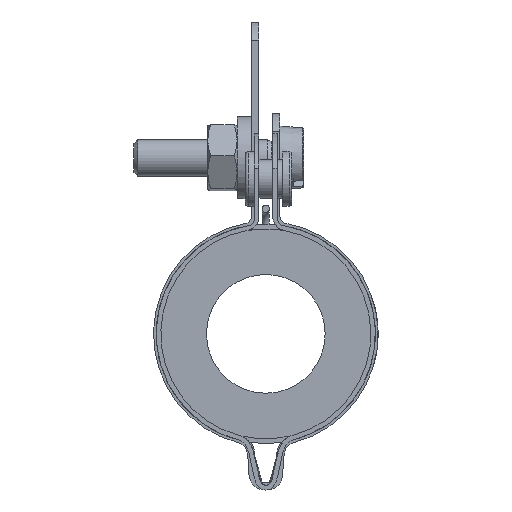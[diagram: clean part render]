
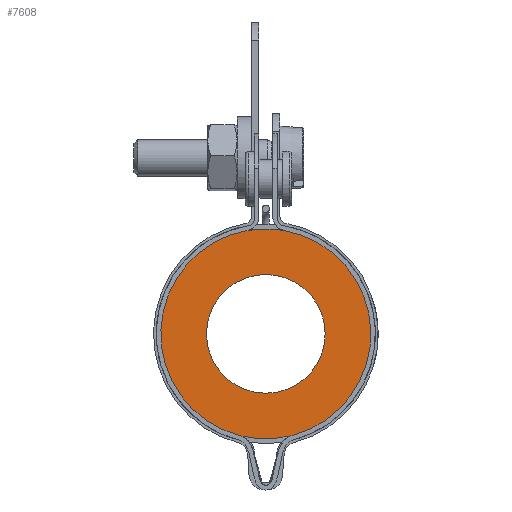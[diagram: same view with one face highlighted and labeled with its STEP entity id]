
A CAD part, front view. The second image highlights one B-rep face of the part: STEP entity #7608.
In plain terms, the highlighted planar face has unit normal (0, -1, 0).
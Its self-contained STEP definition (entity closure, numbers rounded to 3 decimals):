
#72=B_SPLINE_CURVE_WITH_KNOTS($,3,(#12843,#12844,#12845,#12846),
 .UNSPECIFIED.,.F.,.F.,(4,4),(0.,0.023),.UNSPECIFIED.);
#73=B_SPLINE_CURVE_WITH_KNOTS($,3,(#12849,#12850,#12851,#12852),
 .UNSPECIFIED.,.F.,.F.,(4,4),(0.125,0.148),
 .UNSPECIFIED.);
#578=LINE($,#12833,#1128);
#579=LINE($,#12841,#1129);
#1128=VECTOR($,#10332,0.13);
#1129=VECTOR($,#10339,0.13);
#1436=FACE_BOUND($,#2258,.T.);
#1783=FACE_OUTER_BOUND($,#2257,.T.);
#2257=EDGE_LOOP($,(#6192,#6193,#6194,#6195,#6196,#6197,#6198,#6199));
#2258=EDGE_LOOP($,(#6200));
#2731=CIRCLE($,#8367,6.5);
#2736=CIRCLE($,#8375,11.5);
#2737=CIRCLE($,#8376,11.5);
#2738=CIRCLE($,#8377,11.5);
#2739=CIRCLE($,#8378,11.5);
#3393=VERTEX_POINT($,#12804);
#3402=VERTEX_POINT($,#12831);
#3403=VERTEX_POINT($,#12832);
#3404=VERTEX_POINT($,#12834);
#3405=VERTEX_POINT($,#12836);
#3406=VERTEX_POINT($,#12838);
#3407=VERTEX_POINT($,#12840);
#3408=VERTEX_POINT($,#12842);
#3409=VERTEX_POINT($,#12847);
#4353=EDGE_CURVE($,#3393,#3393,#2731,.T.);
#4362=EDGE_CURVE($,#3402,#3403,#578,.T.);
#4363=EDGE_CURVE($,#3403,#3404,#2736,.T.);
#4364=EDGE_CURVE($,#3404,#3405,#2737,.T.);
#4365=EDGE_CURVE($,#3405,#3406,#2738,.T.);
#4366=EDGE_CURVE($,#3406,#3407,#579,.T.);
#4367=EDGE_CURVE($,#3407,#3408,#72,.T.);
#4368=EDGE_CURVE($,#3408,#3409,#2739,.T.);
#4369=EDGE_CURVE($,#3409,#3402,#73,.T.);
#6192=ORIENTED_EDGE($,*,*,#4362,.T.);
#6193=ORIENTED_EDGE($,*,*,#4363,.T.);
#6194=ORIENTED_EDGE($,*,*,#4364,.T.);
#6195=ORIENTED_EDGE($,*,*,#4365,.T.);
#6196=ORIENTED_EDGE($,*,*,#4366,.T.);
#6197=ORIENTED_EDGE($,*,*,#4367,.T.);
#6198=ORIENTED_EDGE($,*,*,#4368,.T.);
#6199=ORIENTED_EDGE($,*,*,#4369,.T.);
#6200=ORIENTED_EDGE($,*,*,#4353,.T.);
#6835=PLANE($,#8374);
#7608=ADVANCED_FACE($,(#1783,#1436),#6835,.T.);
#8367=AXIS2_PLACEMENT_3D($,#12805,#10314,#10315);
#8374=AXIS2_PLACEMENT_3D($,#12830,#10330,#10331);
#8375=AXIS2_PLACEMENT_3D($,#12835,#10333,#10334);
#8376=AXIS2_PLACEMENT_3D($,#12837,#10335,#10336);
#8377=AXIS2_PLACEMENT_3D($,#12839,#10337,#10338);
#8378=AXIS2_PLACEMENT_3D($,#12848,#10340,#10341);
#10314=DIRECTION('center_axis',(0.,1.,0.));
#10315=DIRECTION('ref_axis',(1.,0.,0.));
#10330=DIRECTION('center_axis',(0.,-1.,0.));
#10331=DIRECTION('ref_axis',(0.,0.,-1.));
#10332=DIRECTION($,(0.992,0.,0.126));
#10333=DIRECTION('center_axis',(0.,-1.,0.));
#10334=DIRECTION('ref_axis',(1.,0.,0.));
#10335=DIRECTION('center_axis',(0.,-1.,0.));
#10336=DIRECTION('ref_axis',(1.,0.,0.));
#10337=DIRECTION('center_axis',(0.,-1.,0.));
#10338=DIRECTION('ref_axis',(1.,0.,0.));
#10339=DIRECTION($,(0.992,0.,-0.126));
#10340=DIRECTION('center_axis',(0.,-1.,0.));
#10341=DIRECTION('ref_axis',(1.,0.,0.));
#12804=CARTESIAN_POINT('',(-6.5,0.,0.));
#12805=CARTESIAN_POINT('Origin',(0.,0.,0.));
#12830=CARTESIAN_POINT('Origin',(0.,0.,0.));
#12831=CARTESIAN_POINT('',(2.871,0.,-11.118));
#12832=CARTESIAN_POINT('',(3.,0.,-11.102));
#12833=CARTESIAN_POINT($,(2.153,0.,-11.209));
#12834=CARTESIAN_POINT('',(2.063,0.,11.313));
#12835=CARTESIAN_POINT('Origin',(0.,0.,0.));
#12836=CARTESIAN_POINT('',(-2.063,0.,11.313));
#12837=CARTESIAN_POINT('Origin',(0.,0.,0.));
#12838=CARTESIAN_POINT('',(-3.,0.,-11.102));
#12839=CARTESIAN_POINT('Origin',(0.,0.,0.));
#12840=CARTESIAN_POINT('',(-2.871,0.,-11.118));
#12841=CARTESIAN_POINT($,(-2.153,0.,-11.209));
#12842=CARTESIAN_POINT('',(-2.653,0.,-11.19));
#12843=CARTESIAN_POINT('Ctrl Pts',(-2.871,0.,-11.118));
#12844=CARTESIAN_POINT('Ctrl Pts',(-2.796,0.,-11.137));
#12845=CARTESIAN_POINT('Ctrl Pts',(-2.723,0.,
-11.161));
#12846=CARTESIAN_POINT('Ctrl Pts',(-2.653,0.,
-11.19));
#12847=CARTESIAN_POINT('',(2.653,0.,-11.19));
#12848=CARTESIAN_POINT('Origin',(0.,0.,0.));
#12849=CARTESIAN_POINT('Ctrl Pts',(2.653,0.,-11.19));
#12850=CARTESIAN_POINT('Ctrl Pts',(2.723,0.,
-11.162));
#12851=CARTESIAN_POINT('Ctrl Pts',(2.796,0.,
-11.138));
#12852=CARTESIAN_POINT('Ctrl Pts',(2.871,0.,-11.118));
